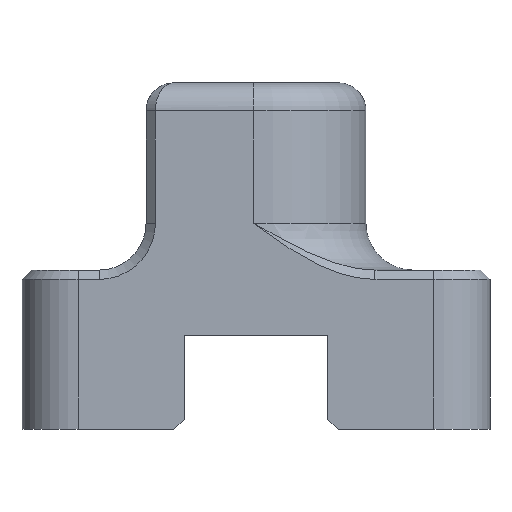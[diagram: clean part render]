
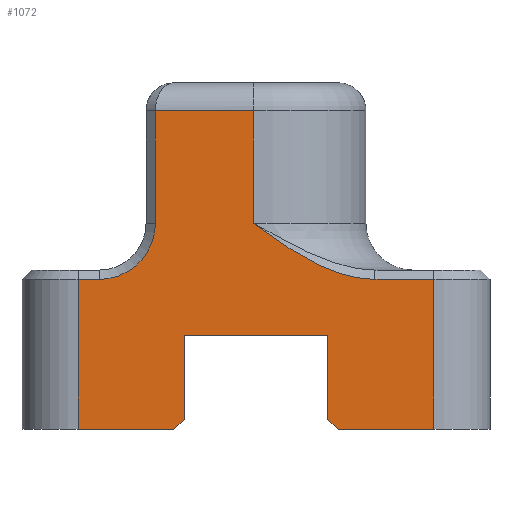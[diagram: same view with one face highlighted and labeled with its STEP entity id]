
A CAD part, left-side view. The second image highlights one B-rep face of the part: STEP entity #1072.
In plain terms, the highlighted planar face has unit normal (-1, 0, 0).
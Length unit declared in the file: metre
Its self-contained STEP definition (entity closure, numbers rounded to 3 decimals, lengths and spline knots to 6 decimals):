
#27=B_SPLINE_CURVE_WITH_KNOTS('',3,(#1619,#1620,#1621,#1622,#1623,#1624,
#1625,#1626,#1627,#1628,#1629),.UNSPECIFIED.,.F.,.F.,(4,1,1,1,1,1,1,1,4),
(0.,0.25,0.375,0.4375,0.5,0.5625,0.625,0.75,1.),.UNSPECIFIED.);
#44=CIRCLE('',#1158,0.0012);
#111=ORIENTED_EDGE('',*,*,#431,.T.);
#112=ORIENTED_EDGE('',*,*,#432,.T.);
#113=ORIENTED_EDGE('',*,*,#433,.F.);
#114=ORIENTED_EDGE('',*,*,#434,.T.);
#115=ORIENTED_EDGE('',*,*,#435,.T.);
#116=ORIENTED_EDGE('',*,*,#436,.T.);
#117=ORIENTED_EDGE('',*,*,#437,.T.);
#118=ORIENTED_EDGE('',*,*,#438,.T.);
#119=ORIENTED_EDGE('',*,*,#439,.T.);
#120=ORIENTED_EDGE('',*,*,#440,.T.);
#121=ORIENTED_EDGE('',*,*,#441,.T.);
#122=ORIENTED_EDGE('',*,*,#442,.T.);
#123=ORIENTED_EDGE('',*,*,#443,.F.);
#124=ORIENTED_EDGE('',*,*,#444,.T.);
#125=ORIENTED_EDGE('',*,*,#445,.F.);
#126=ORIENTED_EDGE('',*,*,#420,.F.);
#420=EDGE_CURVE('',#580,#581,#676,.T.);
#431=EDGE_CURVE('',#580,#589,#682,.T.);
#432=EDGE_CURVE('',#589,#590,#683,.F.);
#433=EDGE_CURVE('',#591,#590,#684,.T.);
#434=EDGE_CURVE('',#591,#592,#685,.F.);
#435=EDGE_CURVE('',#592,#593,#686,.T.);
#436=EDGE_CURVE('',#593,#594,#27,.T.);
#437=EDGE_CURVE('',#594,#595,#687,.F.);
#438=EDGE_CURVE('',#595,#596,#688,.T.);
#439=EDGE_CURVE('',#596,#597,#689,.T.);
#440=EDGE_CURVE('',#597,#598,#44,.F.);
#441=EDGE_CURVE('',#598,#599,#690,.T.);
#442=EDGE_CURVE('',#599,#600,#691,.T.);
#443=EDGE_CURVE('',#601,#600,#692,.T.);
#444=EDGE_CURVE('',#601,#602,#693,.F.);
#445=EDGE_CURVE('',#581,#602,#694,.T.);
#580=VERTEX_POINT('',#1586);
#581=VERTEX_POINT('',#1588);
#589=VERTEX_POINT('',#1610);
#590=VERTEX_POINT('',#1612);
#591=VERTEX_POINT('',#1614);
#592=VERTEX_POINT('',#1616);
#593=VERTEX_POINT('',#1618);
#594=VERTEX_POINT('',#1630);
#595=VERTEX_POINT('',#1632);
#596=VERTEX_POINT('',#1634);
#597=VERTEX_POINT('',#1636);
#598=VERTEX_POINT('',#1638);
#599=VERTEX_POINT('',#1640);
#600=VERTEX_POINT('',#1642);
#601=VERTEX_POINT('',#1644);
#602=VERTEX_POINT('',#1646);
#676=LINE('',#1587,#788);
#682=LINE('',#1609,#794);
#683=LINE('',#1611,#795);
#684=LINE('',#1613,#796);
#685=LINE('',#1615,#797);
#686=LINE('',#1617,#798);
#687=LINE('',#1631,#799);
#688=LINE('',#1633,#800);
#689=LINE('',#1635,#801);
#690=LINE('',#1639,#802);
#691=LINE('',#1641,#803);
#692=LINE('',#1643,#804);
#693=LINE('',#1645,#805);
#694=LINE('',#1647,#806);
#788=VECTOR('',#1266,1.);
#794=VECTOR('',#1288,1.);
#795=VECTOR('',#1289,1.);
#796=VECTOR('',#1290,1.);
#797=VECTOR('',#1291,1.);
#798=VECTOR('',#1292,1.);
#799=VECTOR('',#1293,1.);
#800=VECTOR('',#1294,1.);
#801=VECTOR('',#1295,1.);
#802=VECTOR('',#1298,1.);
#803=VECTOR('',#1299,1.);
#804=VECTOR('',#1300,1.);
#805=VECTOR('',#1301,1.);
#806=VECTOR('',#1302,1.);
#894=EDGE_LOOP('',(#111,#112,#113,#114,#115,#116,#117,#118,#119,#120,#121,
#122,#123,#124,#125,#126));
#964=FACE_BOUND('',#894,.T.);
#1032=PLANE('',#1157);
#1072=ADVANCED_FACE('',(#964),#1032,.T.);
#1157=AXIS2_PLACEMENT_3D('',#1608,#1286,#1287);
#1158=AXIS2_PLACEMENT_3D('',#1637,#1296,#1297);
#1266=DIRECTION('',(0.,1.,0.));
#1286=DIRECTION('',(-1.,0.,0.));
#1287=DIRECTION('',(0.,-1.,0.));
#1288=DIRECTION('',(0.,0.,-1.));
#1289=DIRECTION('',(0.,0.756,0.655));
#1290=DIRECTION('',(0.,1.,0.));
#1291=DIRECTION('',(0.,0.,-1.));
#1292=DIRECTION('',(0.,1.,0.));
#1293=DIRECTION('',(0.,0.,-1.));
#1294=DIRECTION('',(0.,1.,0.));
#1295=DIRECTION('',(0.,0.,-1.));
#1296=DIRECTION('',(-1.,0.,0.));
#1297=DIRECTION('',(0.,-1.,0.));
#1298=DIRECTION('',(0.,1.,0.));
#1299=DIRECTION('',(0.,0.,-1.));
#1300=DIRECTION('',(0.,1.,0.));
#1301=DIRECTION('',(0.,0.756,-0.655));
#1302=DIRECTION('',(0.,0.,-1.));
#1586=CARTESIAN_POINT('',(-0.00235,-0.00153,0.002));
#1587=CARTESIAN_POINT('',(-0.00235,0.,0.002));
#1588=CARTESIAN_POINT('',(-0.00235,0.00153,0.002));
#1608=CARTESIAN_POINT('',(-0.00235,0.,0.0034));
#1609=CARTESIAN_POINT('',(-0.00235,-0.00153,0.002));
#1610=CARTESIAN_POINT('',(-0.00235,-0.00153,0.0002));
#1611=CARTESIAN_POINT('',(-0.00235,0.000928,0.002329));
#1612=CARTESIAN_POINT('',(-0.00235,-0.001761,0.));
#1613=CARTESIAN_POINT('',(-0.00235,0.,0.));
#1614=CARTESIAN_POINT('',(-0.00235,-0.0038,0.));
#1615=CARTESIAN_POINT('',(-0.00235,-0.0038,0.0034));
#1616=CARTESIAN_POINT('',(-0.00235,-0.0038,0.0032));
#1617=CARTESIAN_POINT('',(-0.00235,0.,0.0032));
#1618=CARTESIAN_POINT('',(-0.00235,-0.002542,0.0032));
#1619=CARTESIAN_POINT('',(-0.00235,-0.002542,0.0032));
#1620=CARTESIAN_POINT('',(-0.00235,-0.002322,0.003203));
#1621=CARTESIAN_POINT('',(-0.00235,-0.001986,0.003254));
#1622=CARTESIAN_POINT('',(-0.00235,-0.001573,0.003399));
#1623=CARTESIAN_POINT('',(-0.00235,-0.001345,0.003498));
#1624=CARTESIAN_POINT('',(-0.00235,-0.001139,0.003603));
#1625=CARTESIAN_POINT('',(-0.00235,-0.001059,0.003649));
#1626=CARTESIAN_POINT('',(-0.00235,-0.000887,0.00375));
#1627=CARTESIAN_POINT('',(-0.00235,-0.000568,0.003956));
#1628=CARTESIAN_POINT('',(-0.00235,-0.000215,0.004205));
#1629=CARTESIAN_POINT('',(-0.00235,0.00005,0.0044));
#1630=CARTESIAN_POINT('',(-0.00235,0.00005,0.0044));
#1631=CARTESIAN_POINT('',(-0.00235,0.00005,0.0034));
#1632=CARTESIAN_POINT('',(-0.00235,0.00005,0.0068));
#1633=CARTESIAN_POINT('',(-0.00235,0.,0.0068));
#1634=CARTESIAN_POINT('',(-0.00235,0.00215,0.0068));
#1635=CARTESIAN_POINT('',(-0.00235,0.00215,0.0044));
#1636=CARTESIAN_POINT('',(-0.00235,0.00215,0.0044));
#1637=CARTESIAN_POINT('',(-0.00235,0.00335,0.0044));
#1638=CARTESIAN_POINT('',(-0.00235,0.00335,0.0032));
#1639=CARTESIAN_POINT('',(-0.00235,0.,0.0032));
#1640=CARTESIAN_POINT('',(-0.00235,0.0038,0.0032));
#1641=CARTESIAN_POINT('',(-0.00235,0.0038,0.));
#1642=CARTESIAN_POINT('',(-0.00235,0.0038,0.));
#1643=CARTESIAN_POINT('',(-0.00235,0.,0.));
#1644=CARTESIAN_POINT('',(-0.00235,0.001761,0.));
#1645=CARTESIAN_POINT('',(-0.00235,-0.000928,0.002329));
#1646=CARTESIAN_POINT('',(-0.00235,0.00153,0.0002));
#1647=CARTESIAN_POINT('',(-0.00235,0.00153,0.002));
